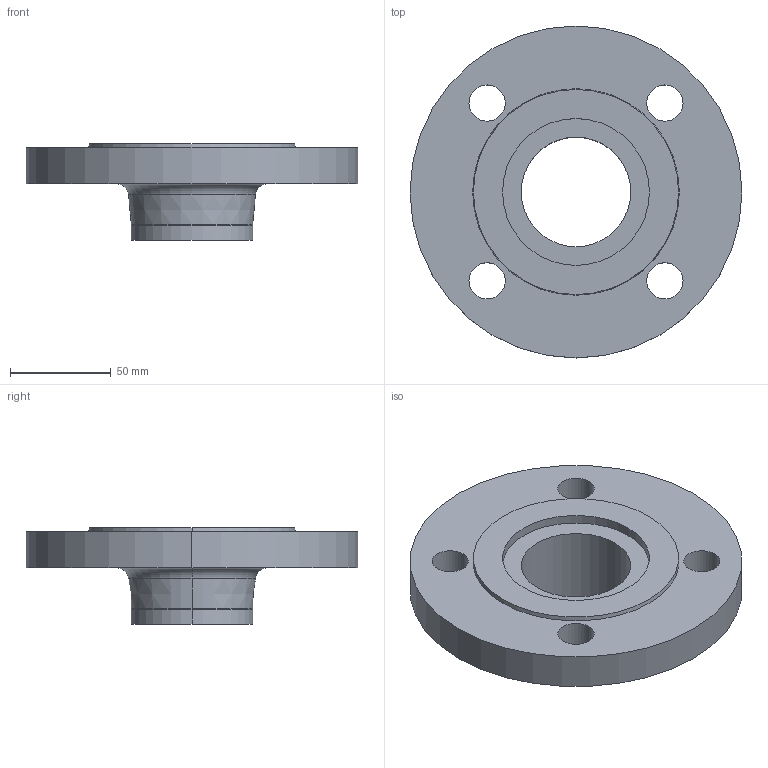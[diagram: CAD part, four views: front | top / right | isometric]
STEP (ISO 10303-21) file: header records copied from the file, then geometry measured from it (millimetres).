
FILE_DESCRIPTION (( 'STEP AP214' ), '1' );
FILE_NAME ('PN40 DN50 Type 11 - Type G Face.STEP', '2018-12-30T04:35:38', ( '' ), ( '' ), 'SwSTEP 2.0', 'SolidWorks 2019', '' );
FILE_SCHEMA (( 'AUTOMOTIVE_DESIGN' ));
Length unit declared in the file: millimetre
Products named in the file (1): PN40 DN50 Type 11 - Type G Face
Bounding box: 165 x 165 x 48 mm (x, y, z)
Volume: 347647.1 mm3; surface area: 63156.6 mm2
Topology: 1 solids, 1 shells, 29 faces, 66 edges, 42 vertices
Faces by surface type: cylinder 16, plane 5, torus 4, cone 4
Entity records: 892 total; most frequent: DIRECTION 172, CARTESIAN_POINT 138, ORIENTED_EDGE 132, AXIS2_PLACEMENT_3D 76, EDGE_CURVE 66, CIRCLE 46, VERTEX_POINT 42, EDGE_LOOP 42
